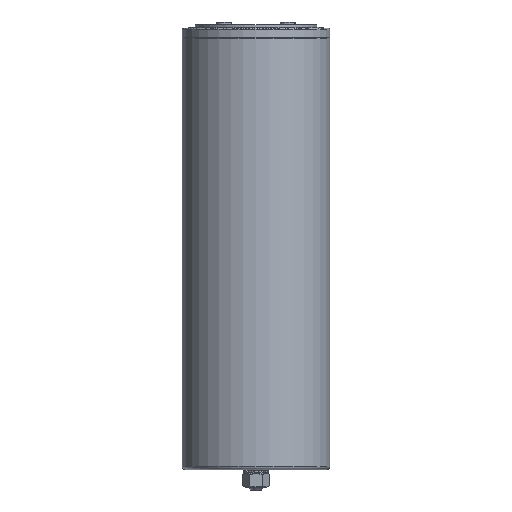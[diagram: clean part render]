
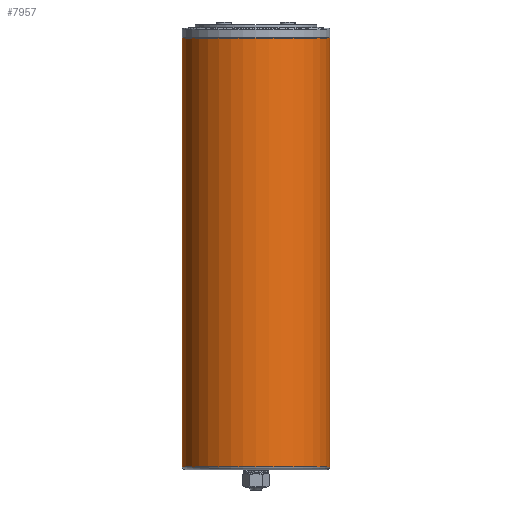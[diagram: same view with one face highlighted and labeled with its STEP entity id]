
A CAD part, front view. The second image highlights one B-rep face of the part: STEP entity #7957.
In plain terms, the highlighted cylindrical face has radius 58 mm (diameter 116 mm), a partial arc.
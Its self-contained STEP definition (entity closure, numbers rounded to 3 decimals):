
#132 = AXIS2_PLACEMENT_3D ( 'NONE', #8745, #4659, #3355 ) ;
#235 = EDGE_CURVE ( 'NONE', #2376, #1407, #6849, .T. ) ;
#1142 = FACE_OUTER_BOUND ( 'NONE', #7224, .T. ) ;
#1407 = VERTEX_POINT ( 'NONE', #8231 ) ;
#1659 = CIRCLE ( 'NONE', #132, 58. ) ;
#1774 = CYLINDRICAL_SURFACE ( 'NONE', #7609, 58. ) ;
#1836 = ORIENTED_EDGE ( 'NONE', *, *, #235, .F. ) ;
#2376 = VERTEX_POINT ( 'NONE', #5343 ) ;
#2441 = DIRECTION ( 'NONE',  ( 0., 0., -1. ) ) ;
#2547 = EDGE_CURVE ( 'NONE', #5145, #2376, #3212, .T. ) ;
#2850 = CARTESIAN_POINT ( 'NONE',  ( -73.5, 0., 317.217 ) ) ;
#3212 = LINE ( 'NONE', #8645, #8428 ) ;
#3355 = DIRECTION ( 'NONE',  ( -1., 0., 0. ) ) ;
#3377 = DIRECTION ( 'NONE',  ( 0., 0., -1. ) ) ;
#3398 = CARTESIAN_POINT ( 'NONE',  ( -15.5, 0., -18.854 ) ) ;
#3553 = AXIS2_PLACEMENT_3D ( 'NONE', #3398, #4070, #7571 ) ;
#4070 = DIRECTION ( 'NONE',  ( 0., 0., -1. ) ) ;
#4552 = VERTEX_POINT ( 'NONE', #2850 ) ;
#4659 = DIRECTION ( 'NONE',  ( 0., 0., -1. ) ) ;
#5145 = VERTEX_POINT ( 'NONE', #6321 ) ;
#5154 = CARTESIAN_POINT ( 'NONE',  ( -15.5, 0., 151.967 ) ) ;
#5277 = DIRECTION ( 'NONE',  ( 0., 0., -1. ) ) ;
#5336 = CARTESIAN_POINT ( 'NONE',  ( -73.5, 0., 151.967 ) ) ;
#5343 = CARTESIAN_POINT ( 'NONE',  ( 42.5, 0., -18.854 ) ) ;
#5369 = EDGE_CURVE ( 'NONE', #4552, #1407, #6906, .T. ) ;
#5732 = DIRECTION ( 'NONE',  ( -1., 0., 0. ) ) ;
#5775 = ORIENTED_EDGE ( 'NONE', *, *, #2547, .F. ) ;
#5980 = EDGE_CURVE ( 'NONE', #5145, #4552, #1659, .T. ) ;
#6321 = CARTESIAN_POINT ( 'NONE',  ( 42.5, 0., 317.217 ) ) ;
#6849 = CIRCLE ( 'NONE', #3553, 58. ) ;
#6906 = LINE ( 'NONE', #5336, #8712 ) ;
#7082 = ORIENTED_EDGE ( 'NONE', *, *, #5369, .T. ) ;
#7224 = EDGE_LOOP ( 'NONE', ( #5775, #7507, #7082, #1836 ) ) ;
#7507 = ORIENTED_EDGE ( 'NONE', *, *, #5980, .T. ) ;
#7571 = DIRECTION ( 'NONE',  ( -1., 0., 0. ) ) ;
#7609 = AXIS2_PLACEMENT_3D ( 'NONE', #5154, #2441, #5732 ) ;
#7957 = ADVANCED_FACE ( 'NONE', ( #1142 ), #1774, .T. ) ;
#8231 = CARTESIAN_POINT ( 'NONE',  ( -73.5, 0., -18.854 ) ) ;
#8428 = VECTOR ( 'NONE', #3377, 1000. ) ;
#8645 = CARTESIAN_POINT ( 'NONE',  ( 42.5, 0., 151.967 ) ) ;
#8712 = VECTOR ( 'NONE', #5277, 1000. ) ;
#8745 = CARTESIAN_POINT ( 'NONE',  ( -15.5, 0., 317.217 ) ) ;
